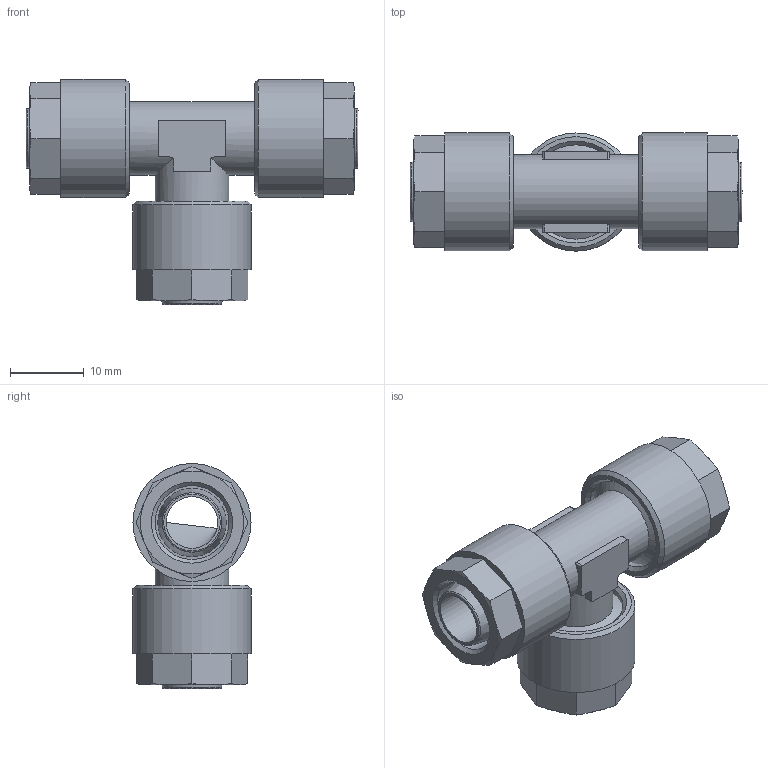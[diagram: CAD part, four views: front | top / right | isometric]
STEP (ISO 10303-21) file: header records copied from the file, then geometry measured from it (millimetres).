
FILE_DESCRIPTION(/* description */ (''),/* implementation_level */ '2;1');
FILE_NAME(/* name */ '12308_309_108_14.08.17',/* time_stamp */ '2017-08-14T15:44:05+02:00',/* author */ (''),/* organization */ (''),/* preprocessor_version */ 'ST-DEVELOPER v16.5',/* originating_system */ 'HiCAD 2016 2102.2 Build 618',/* authorisation */ '');
FILE_SCHEMA (('AUTOMOTIVE_DESIGN { 1 0 10303 214 1 1 1 1 }'));
Length unit declared in the file: millimetre
Products named in the file (5): Root; 17007; R12308
Assembly tree (4 placements, depth 2):
  Root
    17007
    17007
    17007
    R12308
Bounding box: 45 x 16 x 30.5 mm (x, y, z)
Volume: 6330.5 mm3; surface area: 7913.4 mm2
Topology: 4 solids, 4 shells, 146 faces, 361 edges, 231 vertices
Faces by surface type: plane 60, cone 45, cylinder 35, torus 6
Full cylindrical faces by diameter (mm): 7 x2, 8.5 x3, 10 x5, 12.773 x3, 14 x3, 16 x3
Entity records: 9501 total; most frequent: CARTESIAN_POINT 3386, DIRECTION 730, PRESENTATION_STYLE_ASSIGNMENT 572, COLOUR_RGB 569, DRAUGHTING_PRE_DEFINED_CURVE_FONT 568, CURVE_STYLE 568, OVER_RIDING_STYLED_ITEM 568, ORIENTED_EDGE 568
